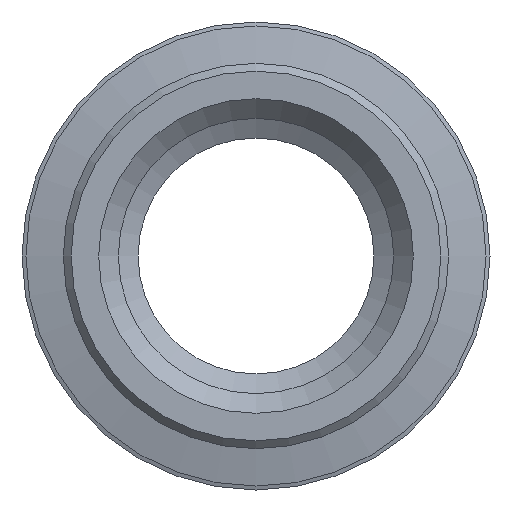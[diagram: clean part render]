
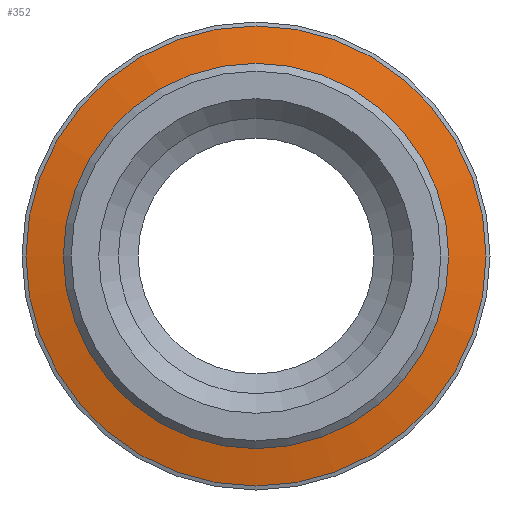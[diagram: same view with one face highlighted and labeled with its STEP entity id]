
A CAD part, front view. The second image highlights one B-rep face of the part: STEP entity #352.
In plain terms, the highlighted conical face has half-angle 78.111 degrees and reference radius 5.375 mm.
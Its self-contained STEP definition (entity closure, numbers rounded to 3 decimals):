
#59=FACE_OUTER_BOUND('',#91,.T.);
#91=EDGE_LOOP('',(#314,#315,#316,#317));
#108=LINE('',#646,#125);
#125=VECTOR('',#547,5.375);
#135=CIRCLE('',#388,4.9);
#153=CIRCLE('',#423,5.85);
#163=VERTEX_POINT('',#576);
#182=VERTEX_POINT('',#642);
#196=EDGE_CURVE('',#163,#163,#135,.T.);
#225=EDGE_CURVE('',#182,#182,#153,.T.);
#227=EDGE_CURVE('',#163,#182,#108,.T.);
#314=ORIENTED_EDGE('',*,*,#196,.F.);
#315=ORIENTED_EDGE('',*,*,#227,.T.);
#316=ORIENTED_EDGE('',*,*,#225,.T.);
#317=ORIENTED_EDGE('',*,*,#227,.F.);
#328=CONICAL_SURFACE('',#424,5.375,1.363);
#352=ADVANCED_FACE('',(#59),#328,.T.);
#388=AXIS2_PLACEMENT_3D('',#578,#461,#462);
#423=AXIS2_PLACEMENT_3D('',#643,#542,#543);
#424=AXIS2_PLACEMENT_3D('',#645,#545,#546);
#461=DIRECTION('center_axis',(0.,-1.,0.));
#462=DIRECTION('ref_axis',(1.,0.,0.));
#542=DIRECTION('center_axis',(0.,-1.,0.));
#543=DIRECTION('ref_axis',(1.,0.,0.));
#545=DIRECTION('center_axis',(0.,1.,0.));
#546=DIRECTION('ref_axis',(1.,0.,0.));
#547=DIRECTION('',(-0.979,0.206,0.));
#576=CARTESIAN_POINT('',(-4.9,5.5,0.));
#578=CARTESIAN_POINT('Origin',(0.,5.5,0.));
#642=CARTESIAN_POINT('',(-5.85,5.7,0.));
#643=CARTESIAN_POINT('Origin',(0.,5.7,0.));
#645=CARTESIAN_POINT('Origin',(0.,5.6,0.));
#646=CARTESIAN_POINT('',(-5.375,5.6,0.));
